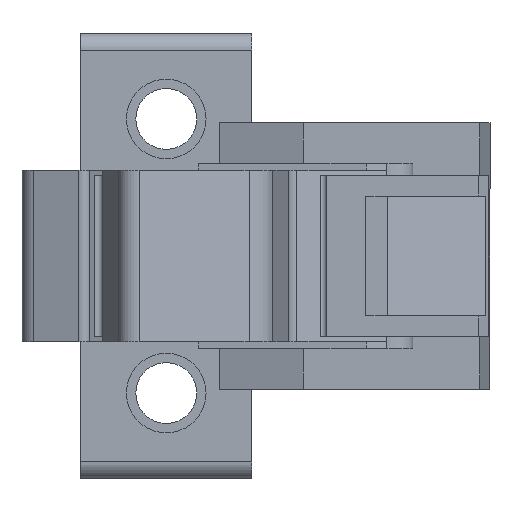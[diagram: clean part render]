
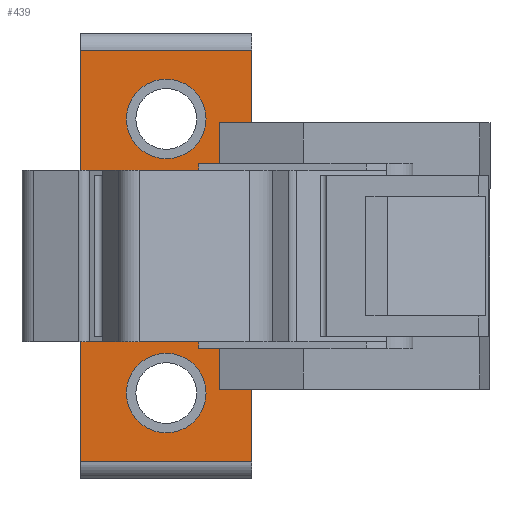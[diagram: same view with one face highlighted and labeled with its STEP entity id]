
A CAD part, front view. The second image highlights one B-rep face of the part: STEP entity #439.
In plain terms, the highlighted planar face has unit normal (0, -1, 0).
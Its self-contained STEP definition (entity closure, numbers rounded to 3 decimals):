
#14 = ORIENTED_EDGE ( 'NONE', *, *, #2885, .F. ) ;
#41 = CARTESIAN_POINT ( 'NONE',  ( -30.852, 44.41, 26. ) ) ;
#47 = DIRECTION ( 'NONE',  ( 0., 1., 0. ) ) ;
#66 = FACE_BOUND ( 'NONE', #1653, .T. ) ;
#149 = ORIENTED_EDGE ( 'NONE', *, *, #3411, .F. ) ;
#240 = CARTESIAN_POINT ( 'NONE',  ( -30.852, 44.41, -15.55 ) ) ;
#293 = CARTESIAN_POINT ( 'NONE',  ( -34.652, 44.41, 15.55 ) ) ;
#359 = DIRECTION ( 'NONE',  ( 1., 0., 0. ) ) ;
#395 = CARTESIAN_POINT ( 'NONE',  ( -34.652, 44.41, -15.55 ) ) ;
#439 = ADVANCED_FACE ( 'NONE', ( #2009, #66, #2910 ), #696, .F. ) ;
#458 = VECTOR ( 'NONE', #784, 1000. ) ;
#559 = LINE ( 'NONE', #240, #2780 ) ;
#561 = CARTESIAN_POINT ( 'NONE',  ( -34.652, 44.41, -15.55 ) ) ;
#623 = LINE ( 'NONE', #728, #2165 ) ;
#632 = ORIENTED_EDGE ( 'NONE', *, *, #2292, .T. ) ;
#652 = CARTESIAN_POINT ( 'NONE',  ( -40.852, 44.41, 16. ) ) ;
#696 = PLANE ( 'NONE',  #3093 ) ;
#725 = DIRECTION ( 'NONE',  ( 0., 0., -1. ) ) ;
#728 = CARTESIAN_POINT ( 'NONE',  ( -24.315, 44.41, 24. ) ) ;
#731 = DIRECTION ( 'NONE',  ( 0., 0., -1. ) ) ;
#761 = LINE ( 'NONE', #3372, #2506 ) ;
#784 = DIRECTION ( 'NONE',  ( 1., 0., 0. ) ) ;
#876 = CARTESIAN_POINT ( 'NONE',  ( -40.852, 44.41, -16. ) ) ;
#891 = CIRCLE ( 'NONE', #2785, 4.65 ) ;
#953 = VERTEX_POINT ( 'NONE', #1077 ) ;
#993 = AXIS2_PLACEMENT_3D ( 'NONE', #876, #2853, #2183 ) ;
#1017 = DIRECTION ( 'NONE',  ( 0., 0., -1. ) ) ;
#1063 = CIRCLE ( 'NONE', #2749, 4.65 ) ;
#1073 = VERTEX_POINT ( 'NONE', #561 ) ;
#1077 = CARTESIAN_POINT ( 'NONE',  ( -40.852, 44.41, 20.65 ) ) ;
#1085 = LINE ( 'NONE', #3038, #458 ) ;
#1100 = VERTEX_POINT ( 'NONE', #2169 ) ;
#1173 = EDGE_CURVE ( 'NONE', #2730, #1100, #623, .T. ) ;
#1278 = VERTEX_POINT ( 'NONE', #2664 ) ;
#1333 = DIRECTION ( 'NONE',  ( 0., -1., 0. ) ) ;
#1346 = EDGE_LOOP ( 'NONE', ( #149, #3107, #1527, #2782, #2949, #632, #3312, #2572 ) ) ;
#1350 = CARTESIAN_POINT ( 'NONE',  ( -24.315, 44.41, 0. ) ) ;
#1461 = LINE ( 'NONE', #4010, #2553 ) ;
#1498 = DIRECTION ( 'NONE',  ( 0., -1., 0. ) ) ;
#1527 = ORIENTED_EDGE ( 'NONE', *, *, #3140, .T. ) ;
#1529 = DIRECTION ( 'NONE',  ( 0., 0., -1. ) ) ;
#1653 = EDGE_LOOP ( 'NONE', ( #2493, #14 ) ) ;
#1740 = VERTEX_POINT ( 'NONE', #2113 ) ;
#1751 = ORIENTED_EDGE ( 'NONE', *, *, #2361, .F. ) ;
#1764 = EDGE_LOOP ( 'NONE', ( #4017, #1751 ) ) ;
#1800 = CARTESIAN_POINT ( 'NONE',  ( -30.852, 44.41, 15.55 ) ) ;
#1959 = DIRECTION ( 'NONE',  ( 0., 0., 1. ) ) ;
#2009 = FACE_BOUND ( 'NONE', #1764, .T. ) ;
#2027 = AXIS2_PLACEMENT_3D ( 'NONE', #652, #2610, #1017 ) ;
#2113 = CARTESIAN_POINT ( 'NONE',  ( -40.852, 44.41, -11.35 ) ) ;
#2144 = VERTEX_POINT ( 'NONE', #2357 ) ;
#2165 = VECTOR ( 'NONE', #2382, 1000. ) ;
#2169 = CARTESIAN_POINT ( 'NONE',  ( -50.852, 44.41, 24. ) ) ;
#2183 = DIRECTION ( 'NONE',  ( 0., 0., -1. ) ) ;
#2292 = EDGE_CURVE ( 'NONE', #3364, #1073, #1461, .T. ) ;
#2334 = DIRECTION ( 'NONE',  ( 0., 0., 1. ) ) ;
#2350 = VERTEX_POINT ( 'NONE', #1800 ) ;
#2357 = CARTESIAN_POINT ( 'NONE',  ( -30.852, 44.41, -24. ) ) ;
#2361 = EDGE_CURVE ( 'NONE', #1740, #1278, #3900, .T. ) ;
#2382 = DIRECTION ( 'NONE',  ( -1., 0., 0. ) ) ;
#2492 = EDGE_CURVE ( 'NONE', #1278, #1740, #1063, .T. ) ;
#2493 = ORIENTED_EDGE ( 'NONE', *, *, #3884, .F. ) ;
#2506 = VECTOR ( 'NONE', #3033, 1000. ) ;
#2553 = VECTOR ( 'NONE', #3714, 1000. ) ;
#2572 = ORIENTED_EDGE ( 'NONE', *, *, #2699, .T. ) ;
#2578 = VECTOR ( 'NONE', #2903, 1000. ) ;
#2586 = VECTOR ( 'NONE', #359, 1000. ) ;
#2610 = DIRECTION ( 'NONE',  ( 0., -1., 0. ) ) ;
#2611 = CARTESIAN_POINT ( 'NONE',  ( -24.315, 44.41, -24. ) ) ;
#2664 = CARTESIAN_POINT ( 'NONE',  ( -40.852, 44.41, -20.65 ) ) ;
#2684 = CARTESIAN_POINT ( 'NONE',  ( -40.852, 44.41, 16. ) ) ;
#2699 = EDGE_CURVE ( 'NONE', #3248, #2350, #1085, .T. ) ;
#2730 = VERTEX_POINT ( 'NONE', #4149 ) ;
#2749 = AXIS2_PLACEMENT_3D ( 'NONE', #3002, #1333, #725 ) ;
#2780 = VECTOR ( 'NONE', #1529, 1000. ) ;
#2782 = ORIENTED_EDGE ( 'NONE', *, *, #4152, .T. ) ;
#2785 = AXIS2_PLACEMENT_3D ( 'NONE', #2684, #1498, #731 ) ;
#2853 = DIRECTION ( 'NONE',  ( 0., -1., 0. ) ) ;
#2885 = EDGE_CURVE ( 'NONE', #953, #3695, #4057, .T. ) ;
#2903 = DIRECTION ( 'NONE',  ( 0., 0., -1. ) ) ;
#2910 = FACE_OUTER_BOUND ( 'NONE', #1346, .T. ) ;
#2920 = VECTOR ( 'NONE', #1959, 1000. ) ;
#2943 = LINE ( 'NONE', #41, #2578 ) ;
#2949 = ORIENTED_EDGE ( 'NONE', *, *, #3716, .F. ) ;
#3002 = CARTESIAN_POINT ( 'NONE',  ( -40.852, 44.41, -16. ) ) ;
#3033 = DIRECTION ( 'NONE',  ( 0., 0., -1. ) ) ;
#3038 = CARTESIAN_POINT ( 'NONE',  ( -34.652, 44.41, 15.55 ) ) ;
#3093 = AXIS2_PLACEMENT_3D ( 'NONE', #1350, #47, #2334 ) ;
#3107 = ORIENTED_EDGE ( 'NONE', *, *, #1173, .T. ) ;
#3140 = EDGE_CURVE ( 'NONE', #1100, #3836, #761, .T. ) ;
#3248 = VERTEX_POINT ( 'NONE', #293 ) ;
#3254 = CARTESIAN_POINT ( 'NONE',  ( -50.852, 44.41, -24. ) ) ;
#3302 = LINE ( 'NONE', #395, #2920 ) ;
#3312 = ORIENTED_EDGE ( 'NONE', *, *, #3406, .T. ) ;
#3364 = VERTEX_POINT ( 'NONE', #3553 ) ;
#3372 = CARTESIAN_POINT ( 'NONE',  ( -50.852, 44.41, 26. ) ) ;
#3406 = EDGE_CURVE ( 'NONE', #1073, #3248, #3302, .T. ) ;
#3411 = EDGE_CURVE ( 'NONE', #2730, #2350, #2943, .T. ) ;
#3553 = CARTESIAN_POINT ( 'NONE',  ( -30.852, 44.41, -15.55 ) ) ;
#3557 = LINE ( 'NONE', #2611, #2586 ) ;
#3695 = VERTEX_POINT ( 'NONE', #3738 ) ;
#3714 = DIRECTION ( 'NONE',  ( -1., 0., 0. ) ) ;
#3716 = EDGE_CURVE ( 'NONE', #3364, #2144, #559, .T. ) ;
#3738 = CARTESIAN_POINT ( 'NONE',  ( -40.852, 44.41, 11.35 ) ) ;
#3836 = VERTEX_POINT ( 'NONE', #3254 ) ;
#3884 = EDGE_CURVE ( 'NONE', #3695, #953, #891, .T. ) ;
#3900 = CIRCLE ( 'NONE', #993, 4.65 ) ;
#4010 = CARTESIAN_POINT ( 'NONE',  ( -29.874, 44.41, -15.55 ) ) ;
#4017 = ORIENTED_EDGE ( 'NONE', *, *, #2492, .F. ) ;
#4057 = CIRCLE ( 'NONE', #2027, 4.65 ) ;
#4149 = CARTESIAN_POINT ( 'NONE',  ( -30.852, 44.41, 24. ) ) ;
#4152 = EDGE_CURVE ( 'NONE', #3836, #2144, #3557, .T. ) ;
